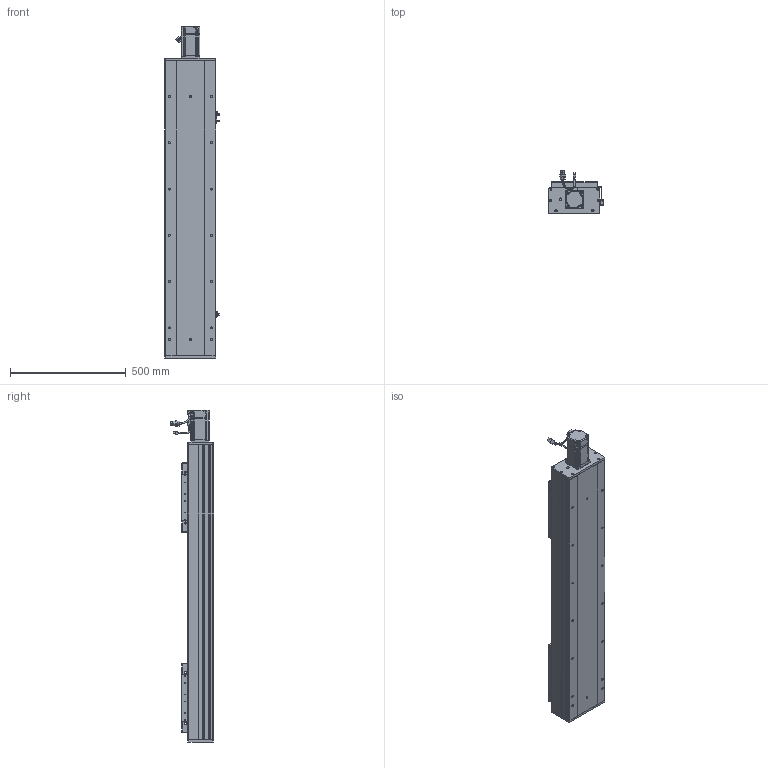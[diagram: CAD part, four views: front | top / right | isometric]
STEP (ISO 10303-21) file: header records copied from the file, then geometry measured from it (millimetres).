
FILE_DESCRIPTION (( 'STEP AP203' ), '1' );
FILE_NAME ('RY220F-L2525-300-MK.SLDASM_850.step', '2022-07-04T01:03:38', ( '' ), ( '' ), 'SwSTEP 2.0', 'SolidWorks 2016', '' );
FILE_SCHEMA (( 'CONFIG_CONTROL_DESIGN' ));
Length unit declared in the file: millimetre
Products named in the file (15): RY220Fヶ裔啣; RY220F-滅鳥奻裔; RY220F-672覜茼んえ; RY220F臏賑釱25-32佪裝; 滅袉蝶18-24; RY220F-L2525-300-MK.SLDASM_850; 覜茼ん672; RY220F綴裔啣; RY220F-奻裔啣-300_850; RY220F菁釱MK-300_850; 怢湛750W_ECMA-CX0807ES; RY220F-詩湍揤踡輸; RY220电机支撑座FK20（PCD90M6）; 滅袉蝶18-20; RY220F-祥凄詩湍-MK-300_850
Assembly tree (23 placements, depth 2):
  RY220F-L2525-300-MK.SLDASM_850
    RY220F菁釱MK-300_850
    RY220电机支撑座FK20（PCD90M6）
    RY220F-奻裔啣-300_850  x2
    怢湛750W_ECMA-CX0807ES
    RY220F臏賑釱25-32佪裝  x2
    RY220F-滅鳥奻裔  x2
    滅袉蝶18-20
    滅袉蝶18-24  x3
    RY220Fヶ裔啣
    RY220F綴裔啣
    RY220F-祥凄詩湍-MK-300_850
    RY220F-詩湍揤踡輸  x2
    覜茼ん672  x3
    RY220F-672覜茼んえ  x2
Bounding box: 233.7 x 187.27 x 1434.3 mm (x, y, z)
Volume: 13854388.8 mm3; surface area: 3407545.6 mm2
Topology: 24 solids, 24 shells, 2734 faces, 7494 edges, 4646 vertices
Faces by surface type: cylinder 1234, plane 1030, cone 407, bspline 37, sphere 16, torus 10
Entity records: 68206 total; most frequent: CARTESIAN_POINT 18362, ORIENTED_EDGE 10106, DIRECTION 9810, EDGE_CURVE 5053, AXIS2_PLACEMENT_3D 3487, VERTEX_POINT 3286, VECTOR 2836, LINE 2836
